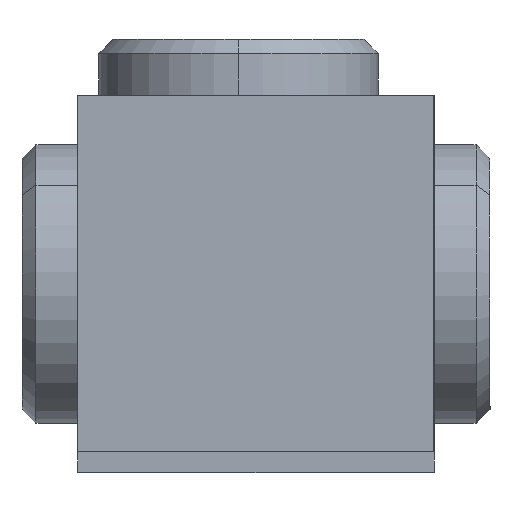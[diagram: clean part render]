
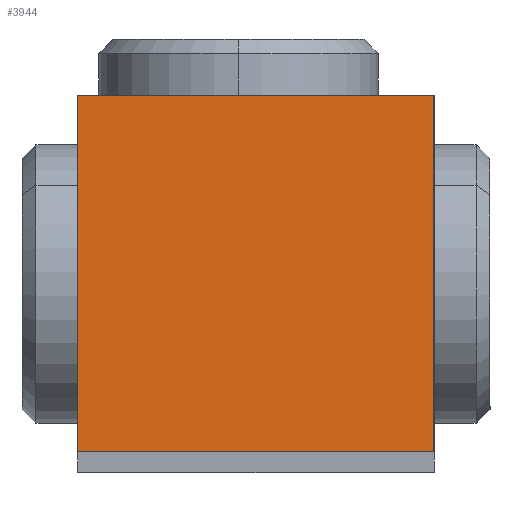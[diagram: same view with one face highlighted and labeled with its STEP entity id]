
A CAD part, front view. The second image highlights one B-rep face of the part: STEP entity #3944.
In plain terms, the highlighted planar face has unit normal (0, -1, 0).
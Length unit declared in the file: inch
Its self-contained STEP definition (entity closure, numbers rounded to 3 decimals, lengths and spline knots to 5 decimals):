
#3 = AXIS2_PLACEMENT_3D ( 'NONE', #3282, #2018, #1291 ) ;
#105 = ORIENTED_EDGE ( 'NONE', *, *, #4133, .T. ) ;
#208 = CARTESIAN_POINT ( 'NONE',  ( -8.05134, -10.27105, -2.8548 ) ) ;
#294 = VECTOR ( 'NONE', #2861, 39.37008 ) ;
#317 = CARTESIAN_POINT ( 'NONE',  ( -8.05134, -10.27105, -2.8548 ) ) ;
#447 = FACE_OUTER_BOUND ( 'NONE', #2827, .T. ) ;
#484 = EDGE_CURVE ( 'NONE', #2496, #1546, #524, .T. ) ;
#491 = CARTESIAN_POINT ( 'NONE',  ( -4.86534, -10.27105, -2.8548 ) ) ;
#524 = LINE ( 'NONE', #208, #294 ) ;
#670 = PLANE ( 'NONE',  #3 ) ;
#980 = DIRECTION ( 'NONE',  ( -1., 0., 0. ) ) ;
#1060 = VECTOR ( 'NONE', #980, 39.37008 ) ;
#1084 = DIRECTION ( 'NONE',  ( 1., 0., 0. ) ) ;
#1161 = VECTOR ( 'NONE', #3125, 39.37008 ) ;
#1219 = VERTEX_POINT ( 'NONE', #3388 ) ;
#1252 = LINE ( 'NONE', #491, #1161 ) ;
#1276 = EDGE_CURVE ( 'NONE', #1546, #3703, #4170, .T. ) ;
#1291 = DIRECTION ( 'NONE',  ( 1., 0., 0. ) ) ;
#1546 = VERTEX_POINT ( 'NONE', #2603 ) ;
#2018 = DIRECTION ( 'NONE',  ( 0., -1., 0. ) ) ;
#2051 = LINE ( 'NONE', #317, #1060 ) ;
#2496 = VERTEX_POINT ( 'NONE', #4224 ) ;
#2603 = CARTESIAN_POINT ( 'NONE',  ( -8.05134, -10.27105, -6.0423 ) ) ;
#2827 = EDGE_LOOP ( 'NONE', ( #3892, #3144, #3853, #105 ) ) ;
#2861 = DIRECTION ( 'NONE',  ( 0., 0., -1. ) ) ;
#2936 = CARTESIAN_POINT ( 'NONE',  ( -4.86534, -10.27105, -6.0423 ) ) ;
#3063 = CARTESIAN_POINT ( 'NONE',  ( -8.05134, -10.27105, -6.0423 ) ) ;
#3125 = DIRECTION ( 'NONE',  ( 0., 0., 1. ) ) ;
#3144 = ORIENTED_EDGE ( 'NONE', *, *, #1276, .T. ) ;
#3282 = CARTESIAN_POINT ( 'NONE',  ( -8.05134, -10.27105, -2.8548 ) ) ;
#3388 = CARTESIAN_POINT ( 'NONE',  ( -4.86534, -10.27105, -2.8548 ) ) ;
#3442 = EDGE_CURVE ( 'NONE', #3703, #1219, #1252, .T. ) ;
#3703 = VERTEX_POINT ( 'NONE', #2936 ) ;
#3708 = VECTOR ( 'NONE', #1084, 39.37008 ) ;
#3853 = ORIENTED_EDGE ( 'NONE', *, *, #3442, .T. ) ;
#3892 = ORIENTED_EDGE ( 'NONE', *, *, #484, .T. ) ;
#3944 = ADVANCED_FACE ( 'NONE', ( #447 ), #670, .T. ) ;
#4133 = EDGE_CURVE ( 'NONE', #1219, #2496, #2051, .T. ) ;
#4170 = LINE ( 'NONE', #3063, #3708 ) ;
#4224 = CARTESIAN_POINT ( 'NONE',  ( -8.05134, -10.27105, -2.8548 ) ) ;
